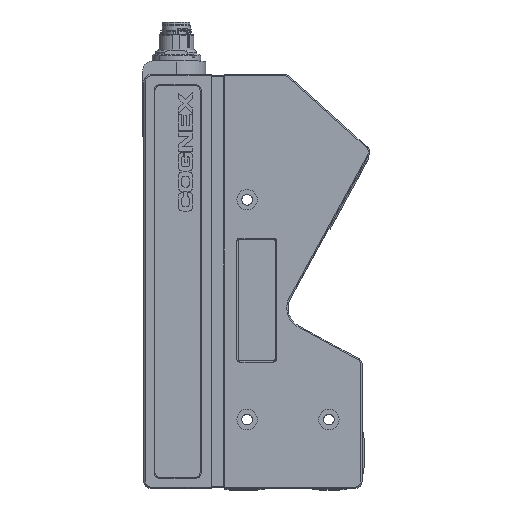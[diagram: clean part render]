
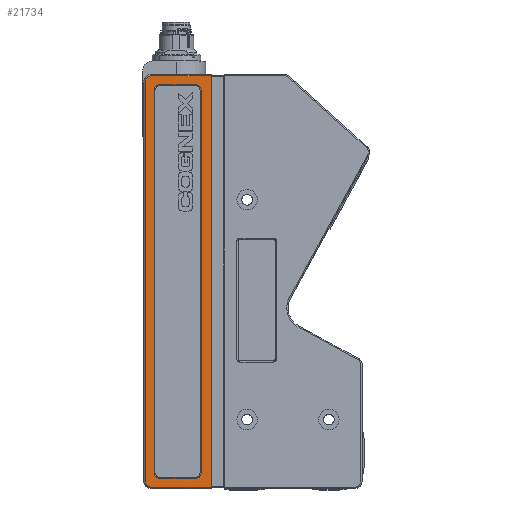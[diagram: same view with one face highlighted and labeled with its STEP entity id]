
A CAD part, top view. The second image highlights one B-rep face of the part: STEP entity #21734.
In plain terms, the highlighted planar face has unit normal (0, 0, 1).
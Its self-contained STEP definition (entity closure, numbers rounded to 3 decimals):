
#1798 = EDGE_CURVE ( 'NONE', #48464, #13003, #77483, .T. ) ;
#1927 = CIRCLE ( 'NONE', #32215, 2.2 ) ;
#2761 = EDGE_CURVE ( 'NONE', #28931, #48464, #75290, .T. ) ;
#3266 = CARTESIAN_POINT ( 'NONE',  ( 2.003, 109.284, 23.093 ) ) ;
#4268 = VERTEX_POINT ( 'NONE', #86566 ) ;
#4323 = CARTESIAN_POINT ( 'NONE',  ( 2.303, -52.716, 23.093 ) ) ;
#4813 = CARTESIAN_POINT ( 'NONE',  ( -1.997, -46.516, 23.093 ) ) ;
#5865 = DIRECTION ( 'NONE',  ( 0., 0., 1. ) ) ;
#7047 = DIRECTION ( 'NONE',  ( 0., 1., 0. ) ) ;
#7702 = DIRECTION ( 'NONE',  ( 0., -1., 0. ) ) ;
#8323 = ORIENTED_EDGE ( 'NONE', *, *, #44550, .T. ) ;
#9049 = CARTESIAN_POINT ( 'NONE',  ( -4.197, 105.284, 23.093 ) ) ;
#10284 = CARTESIAN_POINT ( 'NONE',  ( -18.197, -46.516, 23.093 ) ) ;
#10367 = LINE ( 'NONE', #89162, #69492 ) ;
#10437 = ORIENTED_EDGE ( 'NONE', *, *, #2761, .F. ) ;
#11148 = ORIENTED_EDGE ( 'NONE', *, *, #19125, .F. ) ;
#11707 = VERTEX_POINT ( 'NONE', #82390 ) ;
#12580 = DIRECTION ( 'NONE',  ( 0., -1., 0. ) ) ;
#12943 = ORIENTED_EDGE ( 'NONE', *, *, #86046, .F. ) ;
#13003 = VERTEX_POINT ( 'NONE', #63429 ) ;
#15652 = ORIENTED_EDGE ( 'NONE', *, *, #76366, .F. ) ;
#17311 = EDGE_CURVE ( 'NONE', #4268, #97660, #91651, .T. ) ;
#17768 = FACE_OUTER_BOUND ( 'NONE', #35428, .T. ) ;
#18323 = VERTEX_POINT ( 'NONE', #96119 ) ;
#18540 = DIRECTION ( 'NONE',  ( 0., 0., 1. ) ) ;
#18578 = CARTESIAN_POINT ( 'NONE',  ( 2.003, 108.784, 23.093 ) ) ;
#19125 = EDGE_CURVE ( 'NONE', #41042, #95593, #45524, .T. ) ;
#19805 = LINE ( 'NONE', #79267, #81275 ) ;
#19946 = ORIENTED_EDGE ( 'NONE', *, *, #84399, .T. ) ;
#21447 = CARTESIAN_POINT ( 'NONE',  ( -1.997, 103.084, 23.093 ) ) ;
#21734 = ADVANCED_FACE ( 'NONE', ( #25306, #17768 ), #79236, .F. ) ;
#23896 = ORIENTED_EDGE ( 'NONE', *, *, #50356, .T. ) ;
#24541 = AXIS2_PLACEMENT_3D ( 'NONE', #4323, #50768, #64742 ) ;
#25306 = FACE_BOUND ( 'NONE', #67764, .T. ) ;
#25680 = DIRECTION ( 'NONE',  ( 0., 0., 1. ) ) ;
#26182 = CARTESIAN_POINT ( 'NONE',  ( -18.197, 103.084, 23.093 ) ) ;
#28931 = VERTEX_POINT ( 'NONE', #21447 ) ;
#31043 = AXIS2_PLACEMENT_3D ( 'NONE', #85022, #18540, #94479 ) ;
#32096 = EDGE_CURVE ( 'NONE', #13003, #97400, #78712, .T. ) ;
#32201 = AXIS2_PLACEMENT_3D ( 'NONE', #67287, #5865, #82289 ) ;
#32215 = AXIS2_PLACEMENT_3D ( 'NONE', #10284, #40762, #85249 ) ;
#32996 = ORIENTED_EDGE ( 'NONE', *, *, #73650, .F. ) ;
#33241 = DIRECTION ( 'NONE',  ( 0., 0., 1. ) ) ;
#33716 = DIRECTION ( 'NONE',  ( 0., -1., 0. ) ) ;
#34042 = CARTESIAN_POINT ( 'NONE',  ( -21.397, -52.216, 23.093 ) ) ;
#35428 = EDGE_LOOP ( 'NONE', ( #55305, #8323, #19946, #23896, #42914, #41118 ) ) ;
#35563 = LINE ( 'NONE', #42569, #95148 ) ;
#38370 = VECTOR ( 'NONE', #33716, 1000. ) ;
#40762 = DIRECTION ( 'NONE',  ( 0., 0., 1. ) ) ;
#40849 = DIRECTION ( 'NONE',  ( 1., 0., 0. ) ) ;
#41042 = VERTEX_POINT ( 'NONE', #42977 ) ;
#41118 = ORIENTED_EDGE ( 'NONE', *, *, #56736, .T. ) ;
#42569 = CARTESIAN_POINT ( 'NONE',  ( -23.897, -52.716, 23.093 ) ) ;
#42914 = ORIENTED_EDGE ( 'NONE', *, *, #17311, .T. ) ;
#42977 = CARTESIAN_POINT ( 'NONE',  ( -4.197, -48.716, 23.093 ) ) ;
#43008 = CARTESIAN_POINT ( 'NONE',  ( -23.897, 106.284, 23.093 ) ) ;
#44550 = EDGE_CURVE ( 'NONE', #60469, #11707, #72545, .T. ) ;
#45524 = CIRCLE ( 'NONE', #98148, 2.2 ) ;
#46296 = CARTESIAN_POINT ( 'NONE',  ( -4.197, -46.516, 23.093 ) ) ;
#48464 = VERTEX_POINT ( 'NONE', #69193 ) ;
#50351 = CARTESIAN_POINT ( 'NONE',  ( -1.997, -46.516, 23.093 ) ) ;
#50356 = EDGE_CURVE ( 'NONE', #66310, #4268, #35563, .T. ) ;
#50768 = DIRECTION ( 'NONE',  ( 0., 0., -1. ) ) ;
#51153 = VECTOR ( 'NONE', #7702, 1000. ) ;
#53223 = AXIS2_PLACEMENT_3D ( 'NONE', #26182, #25680, #86600 ) ;
#54244 = LINE ( 'NONE', #3266, #38370 ) ;
#55305 = ORIENTED_EDGE ( 'NONE', *, *, #73444, .F. ) ;
#55666 = VERTEX_POINT ( 'NONE', #59229 ) ;
#56736 = EDGE_CURVE ( 'NONE', #97660, #68933, #19805, .T. ) ;
#57285 = ORIENTED_EDGE ( 'NONE', *, *, #32096, .F. ) ;
#57323 = DIRECTION ( 'NONE',  ( 0., 1., 0. ) ) ;
#58262 = DIRECTION ( 'NONE',  ( 1., 0., 0. ) ) ;
#58687 = VECTOR ( 'NONE', #70472, 1000. ) ;
#59229 = CARTESIAN_POINT ( 'NONE',  ( -18.197, -48.716, 23.093 ) ) ;
#60469 = VERTEX_POINT ( 'NONE', #18578 ) ;
#63429 = CARTESIAN_POINT ( 'NONE',  ( -18.197, 105.284, 23.093 ) ) ;
#64742 = DIRECTION ( 'NONE',  ( 0., 1., 0. ) ) ;
#65583 = ORIENTED_EDGE ( 'NONE', *, *, #92689, .F. ) ;
#66310 = VERTEX_POINT ( 'NONE', #43008 ) ;
#67287 = CARTESIAN_POINT ( 'NONE',  ( -4.197, 103.084, 23.093 ) ) ;
#67495 = DIRECTION ( 'NONE',  ( 0., 0., 1. ) ) ;
#67764 = EDGE_LOOP ( 'NONE', ( #32996, #57285, #84335, #10437, #15652, #11148, #65583, #12943 ) ) ;
#68933 = VERTEX_POINT ( 'NONE', #69311 ) ;
#69193 = CARTESIAN_POINT ( 'NONE',  ( -4.197, 105.284, 23.093 ) ) ;
#69311 = CARTESIAN_POINT ( 'NONE',  ( 2.003, -52.216, 23.093 ) ) ;
#69492 = VECTOR ( 'NONE', #40849, 1000. ) ;
#70472 = DIRECTION ( 'NONE',  ( -1., 0., 0. ) ) ;
#70720 = DIRECTION ( 'NONE',  ( 0., -1., 0. ) ) ;
#72008 = VECTOR ( 'NONE', #81531, 1000. ) ;
#72545 = LINE ( 'NONE', #96517, #72008 ) ;
#73304 = LINE ( 'NONE', #50351, #80776 ) ;
#73444 = EDGE_CURVE ( 'NONE', #60469, #68933, #54244, .T. ) ;
#73650 = EDGE_CURVE ( 'NONE', #97400, #18323, #82182, .T. ) ;
#75290 = CIRCLE ( 'NONE', #32201, 2.2 ) ;
#76366 = EDGE_CURVE ( 'NONE', #95593, #28931, #73304, .T. ) ;
#77483 = LINE ( 'NONE', #9049, #58687 ) ;
#78712 = CIRCLE ( 'NONE', #53223, 2.2 ) ;
#79236 = PLANE ( 'NONE',  #24541 ) ;
#79267 = CARTESIAN_POINT ( 'NONE',  ( 2.303, -52.216, 23.093 ) ) ;
#80776 = VECTOR ( 'NONE', #57323, 1000. ) ;
#81275 = VECTOR ( 'NONE', #58262, 1000. ) ;
#81531 = DIRECTION ( 'NONE',  ( -1., 0., 0. ) ) ;
#82182 = LINE ( 'NONE', #98139, #51153 ) ;
#82289 = DIRECTION ( 'NONE',  ( 0., -1., 0. ) ) ;
#82390 = CARTESIAN_POINT ( 'NONE',  ( -21.397, 108.784, 23.093 ) ) ;
#83587 = CARTESIAN_POINT ( 'NONE',  ( -20.397, 103.084, 23.093 ) ) ;
#84335 = ORIENTED_EDGE ( 'NONE', *, *, #1798, .F. ) ;
#84399 = EDGE_CURVE ( 'NONE', #11707, #66310, #95869, .T. ) ;
#85022 = CARTESIAN_POINT ( 'NONE',  ( -21.397, -49.716, 23.093 ) ) ;
#85249 = DIRECTION ( 'NONE',  ( 0., -1., 0. ) ) ;
#86046 = EDGE_CURVE ( 'NONE', #18323, #55666, #1927, .T. ) ;
#86269 = AXIS2_PLACEMENT_3D ( 'NONE', #89469, #67495, #7047 ) ;
#86566 = CARTESIAN_POINT ( 'NONE',  ( -23.897, -49.716, 23.093 ) ) ;
#86600 = DIRECTION ( 'NONE',  ( 0., -1., 0. ) ) ;
#89162 = CARTESIAN_POINT ( 'NONE',  ( -18.197, -48.716, 23.093 ) ) ;
#89469 = CARTESIAN_POINT ( 'NONE',  ( -21.397, 106.284, 23.093 ) ) ;
#91651 = CIRCLE ( 'NONE', #31043, 2.5 ) ;
#92689 = EDGE_CURVE ( 'NONE', #55666, #41042, #10367, .T. ) ;
#94479 = DIRECTION ( 'NONE',  ( 0., 1., 0. ) ) ;
#95148 = VECTOR ( 'NONE', #12580, 1000. ) ;
#95593 = VERTEX_POINT ( 'NONE', #4813 ) ;
#95869 = CIRCLE ( 'NONE', #86269, 2.5 ) ;
#96119 = CARTESIAN_POINT ( 'NONE',  ( -20.397, -46.516, 23.093 ) ) ;
#96517 = CARTESIAN_POINT ( 'NONE',  ( 2.303, 108.784, 23.093 ) ) ;
#97400 = VERTEX_POINT ( 'NONE', #83587 ) ;
#97660 = VERTEX_POINT ( 'NONE', #34042 ) ;
#98139 = CARTESIAN_POINT ( 'NONE',  ( -20.397, 103.084, 23.093 ) ) ;
#98148 = AXIS2_PLACEMENT_3D ( 'NONE', #46296, #33241, #70720 ) ;
